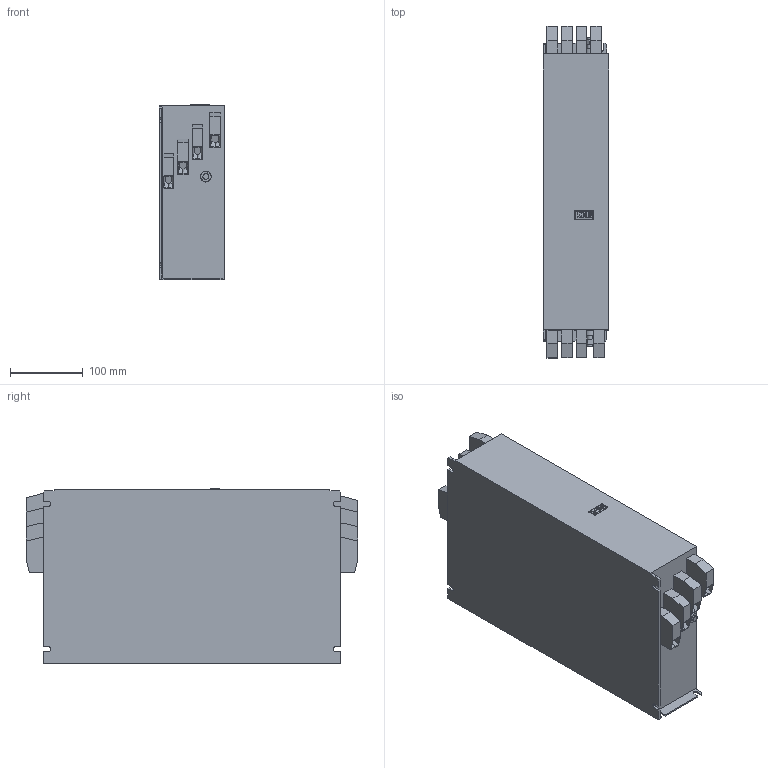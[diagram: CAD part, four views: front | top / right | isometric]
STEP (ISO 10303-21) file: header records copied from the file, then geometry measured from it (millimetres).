
FILE_DESCRIPTION (( 'STEP AP214' ), '1' );
FILE_NAME ('00E6X04-0020.STEP', '2023-07-10T12:33:28', ( '' ), ( '' ), 'SwSTEP 2.0', 'SolidWorks 2022', '' );
FILE_SCHEMA (( 'AUTOMOTIVE_DESIGN' ));
Length unit declared in the file: millimetre
Products named in the file (1): 00E6X04-0020
Bounding box: 90 x 457 x 241.52 mm (x, y, z)
Volume: 8447434.6 mm3; surface area: 353181 mm2
Topology: 1 solids, 1 shells, 254 faces, 661 edges, 438 vertices
Faces by surface type: plane 188, cylinder 37, bspline 29
Entity records: 8724 total; most frequent: CARTESIAN_POINT 2423, ORIENTED_EDGE 1322, DIRECTION 1087, EDGE_CURVE 661, VECTOR 507, LINE 507, VERTEX_POINT 438, AXIS2_PLACEMENT_3D 290
